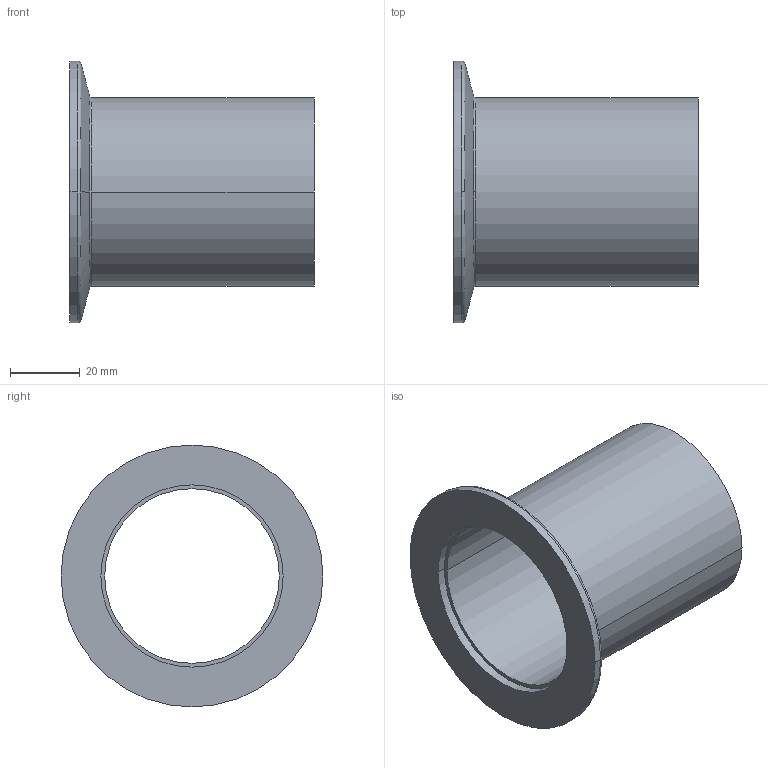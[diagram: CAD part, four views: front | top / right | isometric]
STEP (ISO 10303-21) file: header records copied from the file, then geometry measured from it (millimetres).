
FILE_DESCRIPTION((''),'2;1');
FILE_NAME('W:\211-220.stp','2003-10-09T10:12:29',('KAA'),(''),'Autodesk Inventor (R) 6.0','Autodesk Inventor (R) 6.0','');
FILE_SCHEMA(('CONFIG_CONTROL_DESIGN'));
Length unit declared in the file: millimetre
Products named in the file (1): 211-220
Bounding box: 70 x 75 x 75 mm (x, y, z)
Volume: 31623.3 mm3; surface area: 27516.1 mm2
Topology: 1 solids, 1 shells, 17 faces, 42 edges, 28 vertices
Faces by surface type: cylinder 8, plane 3, torus 2, cone 2, bspline 2
Entity records: 707 total; most frequent: CARTESIAN_POINT 176, DIRECTION 106, ORIENTED_EDGE 84, AXIS2_PLACEMENT_3D 48, EDGE_CURVE 42, CIRCLE 32, VERTEX_POINT 28, EDGE_LOOP 20
